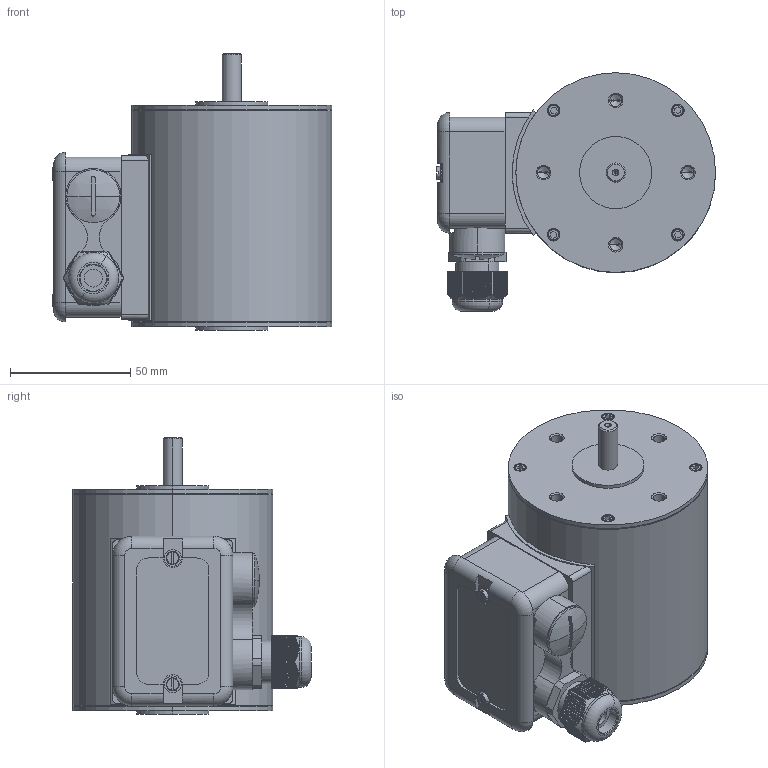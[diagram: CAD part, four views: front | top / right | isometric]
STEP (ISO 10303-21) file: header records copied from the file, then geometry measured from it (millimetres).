
FILE_DESCRIPTION (( 'STEP AP214' ), '1' );
FILE_NAME ('KD844.STEP', '2012-04-16T12:49:50', ( ' ' ), ( '' ), 'SwSTEP 2.0', 'SolidWorks 2010', '' );
FILE_SCHEMA (( 'AUTOMOTIVE_DESIGN' ));
Length unit declared in the file: millimetre
Products named in the file (16): KD844; 935280002; 935280001; 935285001_Dicke bei Montage; 918083020; 951124003; 918088000; 937205002; 918088001; 937201020; 937202011; 951156003; 951120002; 935285000_KD 8; 918088003
Assembly tree (26 placements, depth 4):
  KD844
    951124003  x8
    KD844
    935285000_KD 8
    918083020
      951156003  x2
      918088003
      937201020
      937202011
      918088000
      918088001
        935285001_Dicke bei Montage
        951120002  x2
        935280001  x2
        935280002  x2
        937205002
Bounding box: 116 x 99 x 115 mm (x, y, z)
Volume: 554919.3 mm3; surface area: 84112.1 mm2
Topology: 24 solids, 24 shells, 891 faces, 2285 edges, 1459 vertices
Faces by surface type: plane 418, cylinder 323, cone 128, torus 20, sphere 2
Entity records: 24898 total; most frequent: CARTESIAN_POINT 5272, ORIENTED_EDGE 3882, DIRECTION 3784, EDGE_CURVE 1941, AXIS2_PLACEMENT_3D 1384, VERTEX_POINT 1260, LINE 1016, VECTOR 1016
